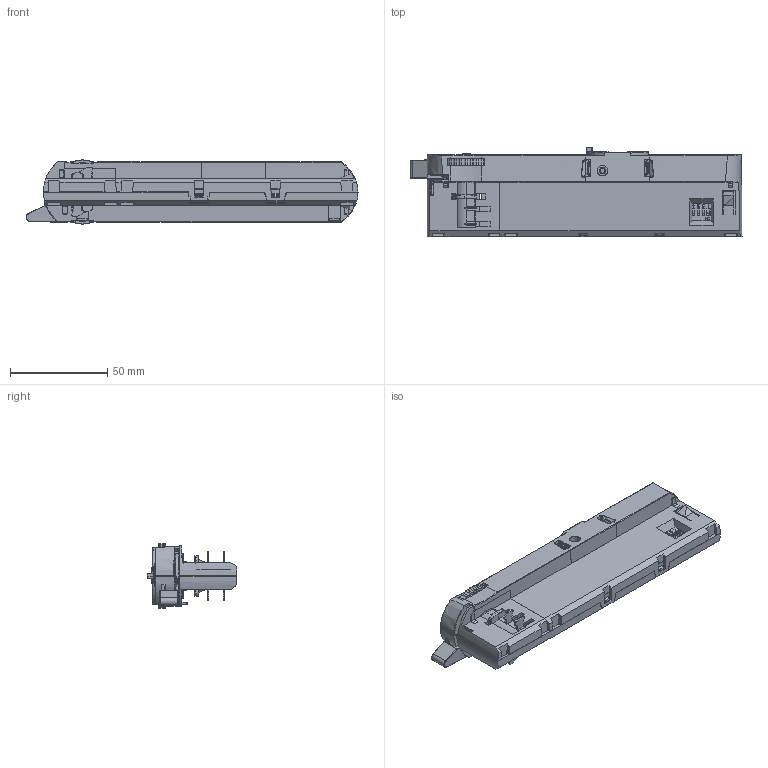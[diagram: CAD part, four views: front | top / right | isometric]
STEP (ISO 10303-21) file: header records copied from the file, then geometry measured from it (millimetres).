
FILE_DESCRIPTION((''),'2;1');
FILE_NAME('162-EGE-230420_ASM','2024-06-03T',('Arbiter.he'),(''),'CREO PARAMETRIC BY PTC INC, 2018220','CREO PARAMETRIC BY PTC INC, 2018220','');
FILE_SCHEMA(('CONFIG_CONTROL_DESIGN'));
Length unit declared in the file: millimetre
Products named in the file (16): XG_28-4_78_100_24; PCB-28-4_8_39_13; DZ2-1_1_2_2_16_1; SG_28-4_52_84_23; 7-J_12_20_8; 00-158-EGE_ASM_12_ASM; BOMA; GUJIA_7; CORE_1; 3D_ASM_3_ASM; L1_ASM; XUAN; SHOUBING; GAI; XUANNIUPEIJIAN_ASM; 162-EGE-230420_ASM
Assembly tree (17 placements, depth 4):
  162-EGE-230420_ASM
    00-158-EGE_ASM_12_ASM
      XG_28-4_78_100_24
      PCB-28-4_8_39_13
      DZ2-1_1_2_2_16_1  x2
      SG_28-4_52_84_23
      7-J_12_20_8
    BOMA
    L1_ASM
      3D_ASM_3_ASM
        GUJIA_7
        CORE_1  x2
    XUANNIUPEIJIAN_ASM
      XUAN
      SHOUBING
      GAI
Bounding box: 171.07 x 46.06 x 33.1 mm (x, y, z)
Volume: 54265.1 mm3; surface area: 76210.8 mm2
Topology: 13 solids, 15 shells, 2790 faces, 8013 edges, 5252 vertices
Faces by surface type: plane 1835, cylinder 733, torus 67, extrusion 67, bspline 59, cone 17, sphere 11, revolution 1
Entity records: 107142 total; most frequent: CARTESIAN_POINT 25223, ORIENTED_EDGE 15354, DIRECTION 12828, EDGE_CURVE 7677, VECTOR 5399, LINE 5332, VERTEX_POINT 5033, PRESENTATION_STYLE_ASSIGNMENT 4144
